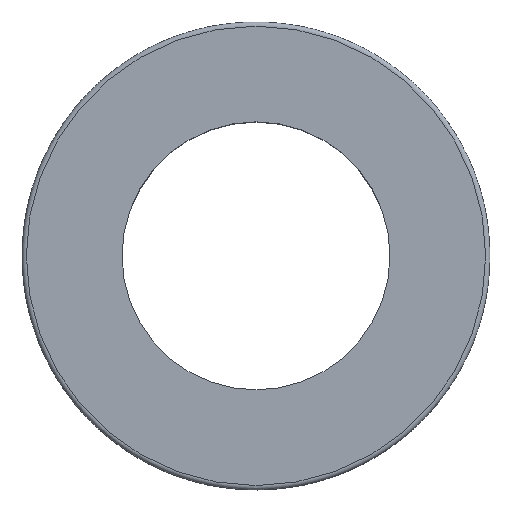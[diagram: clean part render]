
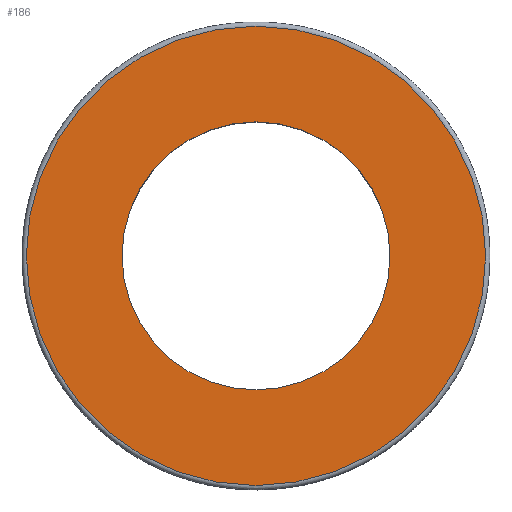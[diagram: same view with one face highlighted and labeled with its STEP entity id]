
A CAD part, top view. The second image highlights one B-rep face of the part: STEP entity #186.
In plain terms, the highlighted planar face has unit normal (0, 0, 1).
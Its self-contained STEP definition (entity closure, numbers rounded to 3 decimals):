
#15=PLANE('',#235);
#24=FACE_BOUND('',#53,.T.);
#38=FACE_OUTER_BOUND('',#52,.T.);
#52=EDGE_LOOP('',(#165));
#53=EDGE_LOOP('',(#166));
#63=CIRCLE('',#209,27.);
#81=CIRCLE('',#233,15.75);
#85=VERTEX_POINT('',#320);
#99=VERTEX_POINT('',#358);
#104=EDGE_CURVE('',#85,#85,#63,.T.);
#122=EDGE_CURVE('',#99,#99,#81,.T.);
#165=ORIENTED_EDGE('',*,*,#104,.T.);
#166=ORIENTED_EDGE('',*,*,#122,.T.);
#186=ADVANCED_FACE('',(#38,#24),#15,.T.);
#209=AXIS2_PLACEMENT_3D('',#321,#251,#252);
#233=AXIS2_PLACEMENT_3D('',#359,#299,#300);
#235=AXIS2_PLACEMENT_3D('',#363,#304,#305);
#251=DIRECTION('center_axis',(0.,0.,
1.));
#252=DIRECTION('ref_axis',(1.,0.,0.));
#299=DIRECTION('center_axis',(0.,0.,-1.));
#300=DIRECTION('ref_axis',(1.,0.,0.));
#304=DIRECTION('center_axis',(0.,0.,1.));
#305=DIRECTION('ref_axis',(1.,0.,0.));
#320=CARTESIAN_POINT('',(-27.,0.,9.));
#321=CARTESIAN_POINT('Origin',(0.,0.,9.));
#358=CARTESIAN_POINT('',(-15.75,0.,9.));
#359=CARTESIAN_POINT('Origin',(0.,0.,9.));
#363=CARTESIAN_POINT('Origin',(0.,0.,9.));
